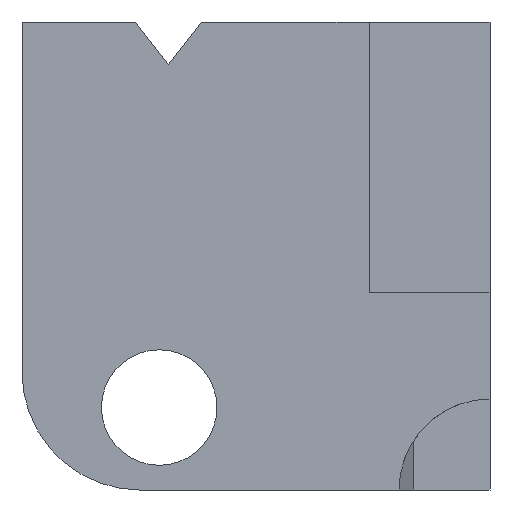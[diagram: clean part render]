
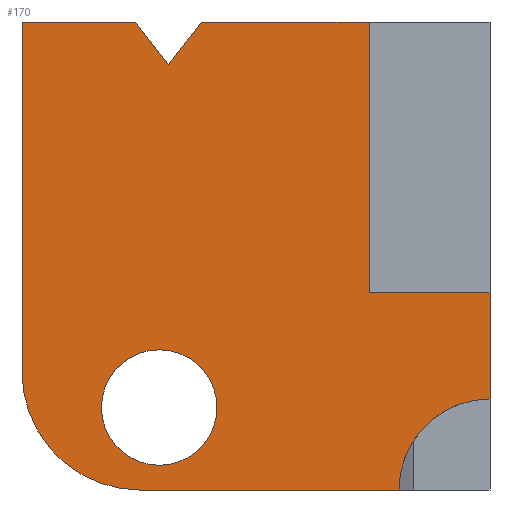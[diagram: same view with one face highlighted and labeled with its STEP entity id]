
A CAD part, front view. The second image highlights one B-rep face of the part: STEP entity #170.
In plain terms, the highlighted planar face has unit normal (0, -1, 0).
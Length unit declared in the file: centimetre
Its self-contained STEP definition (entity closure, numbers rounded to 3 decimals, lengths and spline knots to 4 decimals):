
#10 = VERTEX_POINT ( 'NONE', #692 ) ;
#18 = CIRCLE ( 'NONE', #514, 123.4069 ) ;
#21 = CARTESIAN_POINT ( 'NONE',  ( 252.0995, 0., 252.0995 ) ) ;
#25 = EDGE_CURVE ( 'NONE', #77, #511, #225, .T. ) ;
#27 = DIRECTION ( 'NONE',  ( 1., 0., 0. ) ) ;
#31 = VERTEX_POINT ( 'NONE', #565 ) ;
#41 = CARTESIAN_POINT ( 'NONE',  ( 0., 0., 1000. ) ) ;
#47 = EDGE_LOOP ( 'NONE', ( #562, #50, #328, #739, #378, #551, #130, #200, #158, #290, #656 ) ) ;
#50 = ORIENTED_EDGE ( 'NONE', *, *, #612, .F. ) ;
#51 = VECTOR ( 'NONE', #115, 100. ) ;
#52 = CARTESIAN_POINT ( 'NONE',  ( 0., 0., 1000. ) ) ;
#55 = EDGE_CURVE ( 'NONE', #90, #722, #247, .T. ) ;
#69 = VERTEX_POINT ( 'NONE', #763 ) ;
#76 = DIRECTION ( 'NONE',  ( 0., 0., -1. ) ) ;
#77 = VERTEX_POINT ( 'NONE', #52 ) ;
#90 = VERTEX_POINT ( 'NONE', #167 ) ;
#100 = DIRECTION ( 'NONE',  ( 1., 0., 0. ) ) ;
#111 = CARTESIAN_POINT ( 'NONE',  ( 741.8218, 0., 1000. ) ) ;
#112 = EDGE_CURVE ( 'NONE', #146, #718, #236, .T. ) ;
#115 = DIRECTION ( 'NONE',  ( 1., 0., 0. ) ) ;
#125 = DIRECTION ( 'NONE',  ( 0., -1., 0. ) ) ;
#130 = ORIENTED_EDGE ( 'NONE', *, *, #529, .T. ) ;
#132 = DIRECTION ( 'NONE',  ( 0., 0., 1. ) ) ;
#142 = CARTESIAN_POINT ( 'NONE',  ( 293.1609, 0., 52.7608 ) ) ;
#146 = VERTEX_POINT ( 'NONE', #366 ) ;
#155 = CARTESIAN_POINT ( 'NONE',  ( 0., 0., 252.0995 ) ) ;
#157 = LINE ( 'NONE', #679, #727 ) ;
#158 = ORIENTED_EDGE ( 'NONE', *, *, #55, .F. ) ;
#167 = CARTESIAN_POINT ( 'NONE',  ( 1000., 0., 420.968 ) ) ;
#170 = ADVANCED_FACE ( 'NONE', ( #622, #243 ), #171, .F. ) ;
#171 = PLANE ( 'NONE',  #590 ) ;
#173 = DIRECTION ( 'NONE',  ( 1., 0., 0. ) ) ;
#180 = DIRECTION ( 'NONE',  ( 0., 0., 1. ) ) ;
#191 = CARTESIAN_POINT ( 'NONE',  ( 1000., 0., 194.494 ) ) ;
#200 = ORIENTED_EDGE ( 'NONE', *, *, #691, .F. ) ;
#203 = AXIS2_PLACEMENT_3D ( 'NONE', #21, #657, #132 ) ;
#209 = CARTESIAN_POINT ( 'NONE',  ( 741.8218, 0., 420.968 ) ) ;
#225 = LINE ( 'NONE', #41, #51 ) ;
#236 = LINE ( 'NONE', #491, #282 ) ;
#243 = FACE_OUTER_BOUND ( 'NONE', #47, .T. ) ;
#247 = LINE ( 'NONE', #631, #257 ) ;
#257 = VECTOR ( 'NONE', #306, 100. ) ;
#282 = VECTOR ( 'NONE', #100, 100. ) ;
#290 = ORIENTED_EDGE ( 'NONE', *, *, #733, .F. ) ;
#300 = VERTEX_POINT ( 'NONE', #686 ) ;
#305 = VECTOR ( 'NONE', #470, 100. ) ;
#306 = DIRECTION ( 'NONE',  ( 0., 0., -1. ) ) ;
#320 = VERTEX_POINT ( 'NONE', #155 ) ;
#328 = ORIENTED_EDGE ( 'NONE', *, *, #350, .F. ) ;
#350 = EDGE_CURVE ( 'NONE', #511, #300, #617, .T. ) ;
#358 = DIRECTION ( 'NONE',  ( 0.615, 0., -0.789 ) ) ;
#362 = CARTESIAN_POINT ( 'NONE',  ( 0., 0., 0. ) ) ;
#366 = CARTESIAN_POINT ( 'NONE',  ( 383.0686, 0., 1000. ) ) ;
#378 = ORIENTED_EDGE ( 'NONE', *, *, #838, .T. ) ;
#386 = VECTOR ( 'NONE', #173, 100. ) ;
#390 = DIRECTION ( 'NONE',  ( 0., 0., -1. ) ) ;
#395 = DIRECTION ( 'NONE',  ( 0., 1., 0. ) ) ;
#409 = CARTESIAN_POINT ( 'NONE',  ( 0., 0., 1000. ) ) ;
#416 = EDGE_CURVE ( 'NONE', #320, #31, #597, .T. ) ;
#431 = EDGE_LOOP ( 'NONE', ( #757, #742 ) ) ;
#470 = DIRECTION ( 'NONE',  ( 0., 0., 1. ) ) ;
#475 = AXIS2_PLACEMENT_3D ( 'NONE', #761, #698, #771 ) ;
#491 = CARTESIAN_POINT ( 'NONE',  ( 0., 0., 1000. ) ) ;
#509 = EDGE_CURVE ( 'NONE', #69, #718, #798, .T. ) ;
#511 = VERTEX_POINT ( 'NONE', #735 ) ;
#514 = AXIS2_PLACEMENT_3D ( 'NONE', #702, #125, #390 ) ;
#516 = VERTEX_POINT ( 'NONE', #142 ) ;
#519 = LINE ( 'NONE', #409, #712 ) ;
#529 = EDGE_CURVE ( 'NONE', #31, #754, #758, .T. ) ;
#551 = ORIENTED_EDGE ( 'NONE', *, *, #416, .T. ) ;
#562 = ORIENTED_EDGE ( 'NONE', *, *, #112, .F. ) ;
#563 = CARTESIAN_POINT ( 'NONE',  ( 741.8218, 0., 420.968 ) ) ;
#565 = CARTESIAN_POINT ( 'NONE',  ( 252.0995, 0., 0. ) ) ;
#573 = CARTESIAN_POINT ( 'NONE',  ( 1000., 0., 0. ) ) ;
#590 = AXIS2_PLACEMENT_3D ( 'NONE', #695, #395, #180 ) ;
#597 = CIRCLE ( 'NONE', #203, 252.0995 ) ;
#598 = CIRCLE ( 'NONE', #475, 123.4069 ) ;
#612 = EDGE_CURVE ( 'NONE', #300, #146, #157, .T. ) ;
#617 = LINE ( 'NONE', #676, #697 ) ;
#622 = FACE_BOUND ( 'NONE', #431, .T. ) ;
#631 = CARTESIAN_POINT ( 'NONE',  ( 1000., 0., 1000. ) ) ;
#644 = LINE ( 'NONE', #563, #386 ) ;
#650 = DIRECTION ( 'NONE',  ( 0., 0., -1. ) ) ;
#656 = ORIENTED_EDGE ( 'NONE', *, *, #509, .T. ) ;
#657 = DIRECTION ( 'NONE',  ( 0., -1., 0. ) ) ;
#658 = VECTOR ( 'NONE', #27, 100. ) ;
#660 = CIRCLE ( 'NONE', #817, 194.494 ) ;
#676 = CARTESIAN_POINT ( 'NONE',  ( 242.3852, 0., 1000. ) ) ;
#679 = CARTESIAN_POINT ( 'NONE',  ( 312.7269, 0., 909.782 ) ) ;
#681 = EDGE_CURVE ( 'NONE', #10, #516, #598, .T. ) ;
#685 = DIRECTION ( 'NONE',  ( 0.615, 0., 0.789 ) ) ;
#686 = CARTESIAN_POINT ( 'NONE',  ( 312.7269, 0., 909.782 ) ) ;
#691 = EDGE_CURVE ( 'NONE', #722, #754, #660, .T. ) ;
#692 = CARTESIAN_POINT ( 'NONE',  ( 293.1609, 0., 299.5745 ) ) ;
#695 = CARTESIAN_POINT ( 'NONE',  ( 0., 0., 1000. ) ) ;
#697 = VECTOR ( 'NONE', #358, 100. ) ;
#698 = DIRECTION ( 'NONE',  ( 0., -1., 0. ) ) ;
#702 = CARTESIAN_POINT ( 'NONE',  ( 293.1609, 0., 176.1677 ) ) ;
#712 = VECTOR ( 'NONE', #76, 100. ) ;
#716 = CARTESIAN_POINT ( 'NONE',  ( 805.506, 0., 0. ) ) ;
#718 = VERTEX_POINT ( 'NONE', #111 ) ;
#722 = VERTEX_POINT ( 'NONE', #191 ) ;
#727 = VECTOR ( 'NONE', #685, 100. ) ;
#733 = EDGE_CURVE ( 'NONE', #69, #90, #644, .T. ) ;
#735 = CARTESIAN_POINT ( 'NONE',  ( 242.3852, 0., 1000. ) ) ;
#739 = ORIENTED_EDGE ( 'NONE', *, *, #25, .F. ) ;
#742 = ORIENTED_EDGE ( 'NONE', *, *, #681, .F. ) ;
#754 = VERTEX_POINT ( 'NONE', #716 ) ;
#757 = ORIENTED_EDGE ( 'NONE', *, *, #801, .F. ) ;
#758 = LINE ( 'NONE', #362, #658 ) ;
#761 = CARTESIAN_POINT ( 'NONE',  ( 293.1609, 0., 176.1677 ) ) ;
#763 = CARTESIAN_POINT ( 'NONE',  ( 741.8218, 0., 420.968 ) ) ;
#771 = DIRECTION ( 'NONE',  ( 0., 0., -1. ) ) ;
#779 = DIRECTION ( 'NONE',  ( 0., -1., 0. ) ) ;
#798 = LINE ( 'NONE', #209, #305 ) ;
#801 = EDGE_CURVE ( 'NONE', #516, #10, #18, .T. ) ;
#817 = AXIS2_PLACEMENT_3D ( 'NONE', #573, #779, #650 ) ;
#838 = EDGE_CURVE ( 'NONE', #77, #320, #519, .T. ) ;
